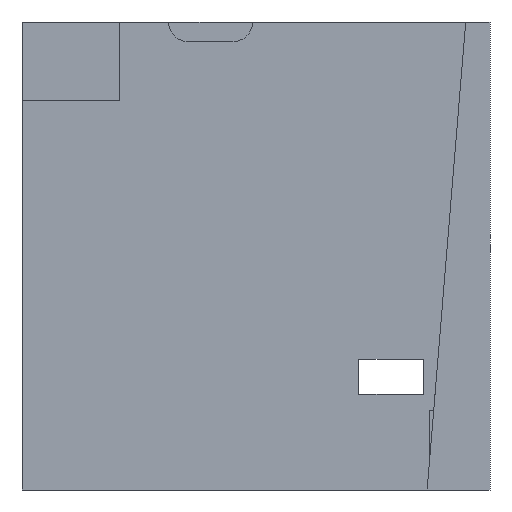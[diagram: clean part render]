
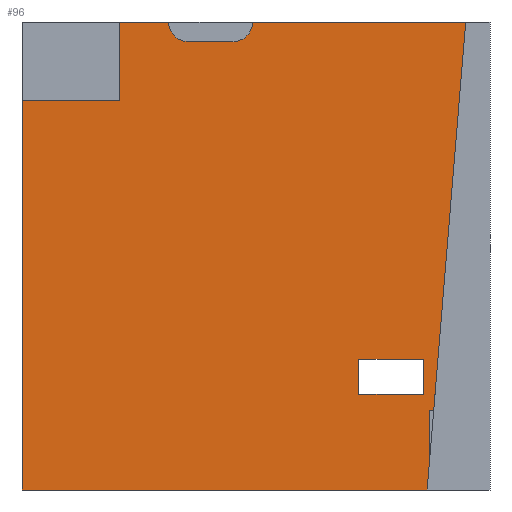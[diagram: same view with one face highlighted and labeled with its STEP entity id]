
A CAD part, left-side view. The second image highlights one B-rep face of the part: STEP entity #96.
In plain terms, the highlighted planar face has unit normal (-1, 0, 0).
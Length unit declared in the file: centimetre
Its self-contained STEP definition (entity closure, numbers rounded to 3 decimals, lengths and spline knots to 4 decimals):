
#2 = CARTESIAN_POINT ( 'NONE',  ( 0., 549.2135, 958.0021 ) ) ;
#7 = DIRECTION ( 'NONE',  ( 0., 0., 1. ) ) ;
#9 = CARTESIAN_POINT ( 'NONE',  ( 0., 0., 170.6688 ) ) ;
#34 = DIRECTION ( 'NONE',  ( -1., 0., 0. ) ) ;
#53 = CARTESIAN_POINT ( 'NONE',  ( 0., 280.153, 204.5513 ) ) ;
#63 = ORIENTED_EDGE ( 'NONE', *, *, #317, .F. ) ;
#66 = CARTESIAN_POINT ( 'NONE',  ( 0., 142.5159, 204.5513 ) ) ;
#92 = ORIENTED_EDGE ( 'NONE', *, *, #1101, .F. ) ;
#93 = VECTOR ( 'NONE', #1808, 100. ) ;
#96 = ADVANCED_FACE ( 'NONE', ( #1716, #130 ), #1127, .F. ) ;
#98 = ORIENTED_EDGE ( 'NONE', *, *, #742, .F. ) ;
#99 = DIRECTION ( 'NONE',  ( 0., -1., 0. ) ) ;
#111 = VECTOR ( 'NONE', #1191, 100. ) ;
#118 = EDGE_CURVE ( 'NONE', #526, #1792, #1409, .T. ) ;
#122 = VECTOR ( 'NONE', #99, 100. ) ;
#130 = FACE_OUTER_BOUND ( 'NONE', #1672, .T. ) ;
#141 = DIRECTION ( 'NONE',  ( 0., 0., -1. ) ) ;
#144 = EDGE_CURVE ( 'NONE', #1003, #680, #1838, .T. ) ;
#149 = DIRECTION ( 'NONE',  ( 0., 0., -1. ) ) ;
#150 = ORIENTED_EDGE ( 'NONE', *, *, #697, .T. ) ;
#162 = LINE ( 'NONE', #9, #484 ) ;
#213 = CARTESIAN_POINT ( 'NONE',  ( 0., 280.153, 279.4476 ) ) ;
#232 = ORIENTED_EDGE ( 'NONE', *, *, #1080, .F. ) ;
#245 = VERTEX_POINT ( 'NONE', #1759 ) ;
#246 = DIRECTION ( 'NONE',  ( 0., 0.082, -0.997 ) ) ;
#253 = ORIENTED_EDGE ( 'NONE', *, *, #1666, .F. ) ;
#282 = LINE ( 'NONE', #1657, #122 ) ;
#317 = EDGE_CURVE ( 'NONE', #1663, #762, #1313, .T. ) ;
#322 = CARTESIAN_POINT ( 'NONE',  ( 0., 549.2135, 958.0021 ) ) ;
#327 = CARTESIAN_POINT ( 'NONE',  ( 0., 129.5933, 0. ) ) ;
#351 = EDGE_CURVE ( 'NONE', #1212, #1319, #1201, .T. ) ;
#352 = CARTESIAN_POINT ( 'NONE',  ( 0., 280.153, 204.5513 ) ) ;
#358 = VECTOR ( 'NONE', #729, 100. ) ;
#360 = CARTESIAN_POINT ( 'NONE',  ( 0., 791.3761, 832.407 ) ) ;
#363 = ORIENTED_EDGE ( 'NONE', *, *, #1156, .F. ) ;
#393 = CIRCLE ( 'NONE', #1819, 41.9979 ) ;
#398 = ORIENTED_EDGE ( 'NONE', *, *, #1217, .F. ) ;
#418 = LINE ( 'NONE', #802, #1147 ) ;
#474 = ORIENTED_EDGE ( 'NONE', *, *, #1341, .T. ) ;
#483 = DIRECTION ( 'NONE',  ( 0., 0., -1. ) ) ;
#484 = VECTOR ( 'NONE', #963, 100. ) ;
#489 = CARTESIAN_POINT ( 'NONE',  ( 0., 549.2135, 1000. ) ) ;
#490 = CARTESIAN_POINT ( 'NONE',  ( 0., 791.3761, 832.407 ) ) ;
#503 = VECTOR ( 'NONE', #7, 100. ) ;
#513 = ORIENTED_EDGE ( 'NONE', *, *, #144, .T. ) ;
#514 = ORIENTED_EDGE ( 'NONE', *, *, #1230, .F. ) ;
#519 = LINE ( 'NONE', #950, #1057 ) ;
#521 = AXIS2_PLACEMENT_3D ( 'NONE', #489, #1327, #1051 ) ;
#526 = VERTEX_POINT ( 'NONE', #213 ) ;
#528 = CARTESIAN_POINT ( 'NONE',  ( 0., 1000., 0. ) ) ;
#560 = CARTESIAN_POINT ( 'NONE',  ( 0., 1000., 0. ) ) ;
#567 = CARTESIAN_POINT ( 'NONE',  ( 0., 644.6698, 1000. ) ) ;
#588 = ORIENTED_EDGE ( 'NONE', *, *, #1775, .F. ) ;
#597 = CARTESIAN_POINT ( 'NONE',  ( 0., 791.3761, 832.407 ) ) ;
#653 = LINE ( 'NONE', #528, #1508 ) ;
#678 = ORIENTED_EDGE ( 'NONE', *, *, #1126, .T. ) ;
#680 = VERTEX_POINT ( 'NONE', #560 ) ;
#682 = CARTESIAN_POINT ( 'NONE',  ( 0., 142.5159, 279.4476 ) ) ;
#695 = VECTOR ( 'NONE', #141, 100. ) ;
#697 = EDGE_CURVE ( 'NONE', #1792, #1212, #1413, .T. ) ;
#704 = LINE ( 'NONE', #597, #503 ) ;
#729 = DIRECTION ( 'NONE',  ( 0., -1., 0. ) ) ;
#742 = EDGE_CURVE ( 'NONE', #1550, #1383, #162, .T. ) ;
#744 = VECTOR ( 'NONE', #483, 100. ) ;
#762 = VERTEX_POINT ( 'NONE', #835 ) ;
#769 = DIRECTION ( 'NONE',  ( 0., 0., 1. ) ) ;
#772 = DIRECTION ( 'NONE',  ( 0., 1., 0. ) ) ;
#802 = CARTESIAN_POINT ( 'NONE',  ( 0., 51.9798, 1000. ) ) ;
#820 = ORIENTED_EDGE ( 'NONE', *, *, #351, .T. ) ;
#827 = CARTESIAN_POINT ( 'NONE',  ( 0., 120.3584, 170.6688 ) ) ;
#831 = CARTESIAN_POINT ( 'NONE',  ( 0., 1000., 1000. ) ) ;
#833 = CARTESIAN_POINT ( 'NONE',  ( 0., 1000., 1000. ) ) ;
#835 = CARTESIAN_POINT ( 'NONE',  ( 0., 507.2156, 1000. ) ) ;
#845 = AXIS2_PLACEMENT_3D ( 'NONE', #1686, #962, #1536 ) ;
#950 = CARTESIAN_POINT ( 'NONE',  ( 0., 51.9798, 1000. ) ) ;
#962 = DIRECTION ( 'NONE',  ( 1., 0., 0. ) ) ;
#963 = DIRECTION ( 'NONE',  ( 0., 1., 0. ) ) ;
#1003 = VERTEX_POINT ( 'NONE', #1647 ) ;
#1009 = VECTOR ( 'NONE', #769, 100. ) ;
#1017 = VECTOR ( 'NONE', #1249, 100. ) ;
#1020 = VERTEX_POINT ( 'NONE', #490 ) ;
#1047 = EDGE_CURVE ( 'NONE', #1198, #1074, #282, .T. ) ;
#1051 = DIRECTION ( 'NONE',  ( 0., 0., -1. ) ) ;
#1057 = VECTOR ( 'NONE', #1523, 100. ) ;
#1074 = VERTEX_POINT ( 'NONE', #1543 ) ;
#1080 = EDGE_CURVE ( 'NONE', #1151, #1550, #418, .T. ) ;
#1100 = VECTOR ( 'NONE', #149, 100. ) ;
#1101 = EDGE_CURVE ( 'NONE', #762, #1151, #1535, .T. ) ;
#1126 = EDGE_CURVE ( 'NONE', #680, #1806, #653, .T. ) ;
#1127 = PLANE ( 'NONE',  #845 ) ;
#1134 = CARTESIAN_POINT ( 'NONE',  ( 0., 791.3761, 1000. ) ) ;
#1147 = VECTOR ( 'NONE', #246, 100. ) ;
#1150 = ORIENTED_EDGE ( 'NONE', *, *, #1047, .F. ) ;
#1151 = VERTEX_POINT ( 'NONE', #1799 ) ;
#1156 = EDGE_CURVE ( 'NONE', #245, #1806, #519, .T. ) ;
#1191 = DIRECTION ( 'NONE',  ( 0., 1., 0. ) ) ;
#1198 = VERTEX_POINT ( 'NONE', #1134 ) ;
#1201 = LINE ( 'NONE', #66, #111 ) ;
#1208 = EDGE_LOOP ( 'NONE', ( #150, #820, #1273, #1283 ) ) ;
#1212 = VERTEX_POINT ( 'NONE', #1268 ) ;
#1217 = EDGE_CURVE ( 'NONE', #1228, #1663, #1566, .T. ) ;
#1228 = VERTEX_POINT ( 'NONE', #1704 ) ;
#1230 = EDGE_CURVE ( 'NONE', #1020, #1198, #704, .T. ) ;
#1248 = DIRECTION ( 'NONE',  ( 0., -1., 0. ) ) ;
#1249 = DIRECTION ( 'NONE',  ( 0., -1., 0. ) ) ;
#1268 = CARTESIAN_POINT ( 'NONE',  ( 0., 142.5159, 204.5513 ) ) ;
#1272 = DIRECTION ( 'NONE',  ( 0., 0., -1. ) ) ;
#1273 = ORIENTED_EDGE ( 'NONE', *, *, #1797, .T. ) ;
#1283 = ORIENTED_EDGE ( 'NONE', *, *, #118, .T. ) ;
#1313 = CIRCLE ( 'NONE', #521, 41.9979 ) ;
#1319 = VERTEX_POINT ( 'NONE', #352 ) ;
#1327 = DIRECTION ( 'NONE',  ( -1., 0., 0. ) ) ;
#1333 = CARTESIAN_POINT ( 'NONE',  ( 0., 134.4301, 0. ) ) ;
#1341 = EDGE_CURVE ( 'NONE', #1020, #1003, #1757, .T. ) ;
#1383 = VERTEX_POINT ( 'NONE', #1645 ) ;
#1409 = LINE ( 'NONE', #682, #1017 ) ;
#1413 = LINE ( 'NONE', #1552, #1100 ) ;
#1486 = VECTOR ( 'NONE', #772, 100. ) ;
#1487 = LINE ( 'NONE', #53, #1009 ) ;
#1508 = VECTOR ( 'NONE', #1248, 100. ) ;
#1523 = DIRECTION ( 'NONE',  ( 0., 0.082, -0.997 ) ) ;
#1535 = LINE ( 'NONE', #831, #93 ) ;
#1536 = DIRECTION ( 'NONE',  ( 0., 0., -1. ) ) ;
#1543 = CARTESIAN_POINT ( 'NONE',  ( 0., 686.6677, 1000. ) ) ;
#1550 = VERTEX_POINT ( 'NONE', #827 ) ;
#1552 = CARTESIAN_POINT ( 'NONE',  ( 0., 142.5159, 204.5513 ) ) ;
#1566 = LINE ( 'NONE', #322, #358 ) ;
#1631 = CARTESIAN_POINT ( 'NONE',  ( 0., 142.5159, 279.4476 ) ) ;
#1645 = CARTESIAN_POINT ( 'NONE',  ( 0., 129.5933, 170.6688 ) ) ;
#1647 = CARTESIAN_POINT ( 'NONE',  ( 0., 1000., 832.407 ) ) ;
#1657 = CARTESIAN_POINT ( 'NONE',  ( 0., 1000., 1000. ) ) ;
#1663 = VERTEX_POINT ( 'NONE', #2 ) ;
#1666 = EDGE_CURVE ( 'NONE', #1074, #1228, #393, .T. ) ;
#1672 = EDGE_LOOP ( 'NONE', ( #92, #63, #398, #253, #1150, #514, #474, #513, #678, #363, #588, #98, #232 ) ) ;
#1686 = CARTESIAN_POINT ( 'NONE',  ( 0., 1000., 1000. ) ) ;
#1704 = CARTESIAN_POINT ( 'NONE',  ( 0., 644.6698, 958.0021 ) ) ;
#1716 = FACE_BOUND ( 'NONE', #1208, .T. ) ;
#1737 = LINE ( 'NONE', #327, #744 ) ;
#1757 = LINE ( 'NONE', #360, #1486 ) ;
#1759 = CARTESIAN_POINT ( 'NONE',  ( 0., 129.5933, 58.6636 ) ) ;
#1775 = EDGE_CURVE ( 'NONE', #1383, #245, #1737, .T. ) ;
#1792 = VERTEX_POINT ( 'NONE', #1631 ) ;
#1797 = EDGE_CURVE ( 'NONE', #1319, #526, #1487, .T. ) ;
#1799 = CARTESIAN_POINT ( 'NONE',  ( 0., 51.9798, 1000. ) ) ;
#1806 = VERTEX_POINT ( 'NONE', #1333 ) ;
#1808 = DIRECTION ( 'NONE',  ( 0., -1., 0. ) ) ;
#1819 = AXIS2_PLACEMENT_3D ( 'NONE', #567, #34, #1272 ) ;
#1838 = LINE ( 'NONE', #833, #695 ) ;
